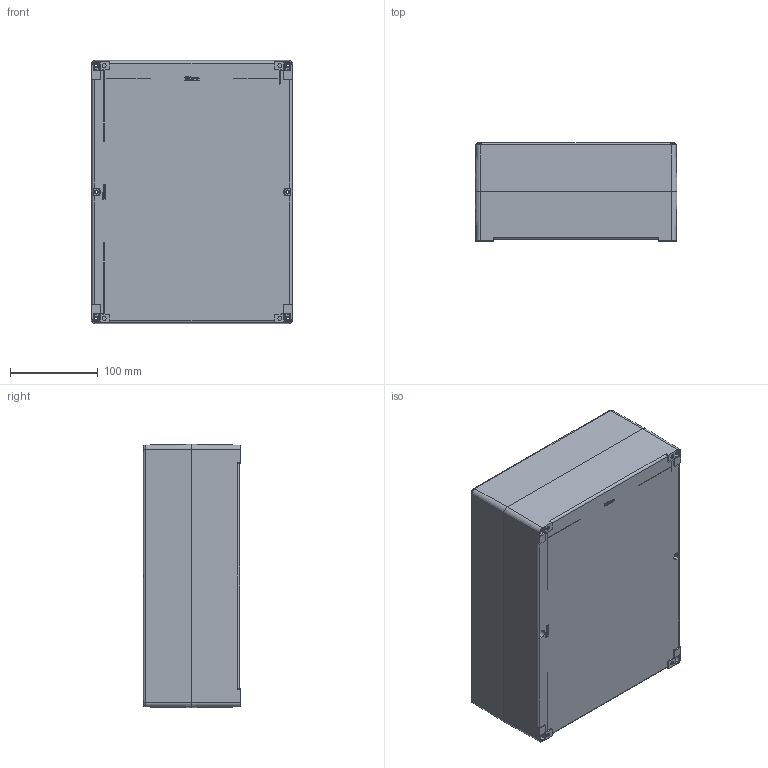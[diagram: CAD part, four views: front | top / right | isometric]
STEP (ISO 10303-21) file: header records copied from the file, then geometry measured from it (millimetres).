
FILE_DESCRIPTION (( 'STEP AP214' ), '1' );
FILE_NAME ('ZP 19 asm.STEP', '2014-10-27T11:41:47', ( '' ), ( '' ), 'SwSTEP 2.0', 'SolidWorks 2014', '' );
FILE_SCHEMA (( 'AUTOMOTIVE_DESIGN' ));
Length unit declared in the file: millimetre
Products named in the file (3): ZP 19 lid; ZP 19 Base; ZP 19 asm
Assembly tree (2 placements, depth 2):
  ZP 19 asm
    ZP 19 Base
    ZP 19 lid
Bounding box: 230 x 111.5 x 300 mm (x, y, z)
Volume: 756361 mm3; surface area: 537690.4 mm2
Topology: 2 solids, 2 shells, 1021 faces, 2767 edges, 1766 vertices
Faces by surface type: plane 546, cone 244, cylinder 121, bspline 100, torus 10
Entity records: 38061 total; most frequent: CARTESIAN_POINT 12709, ORIENTED_EDGE 5486, DIRECTION 4953, EDGE_CURVE 2743, VERTEX_POINT 1766, VECTOR 1757, LINE 1757, AXIS2_PLACEMENT_3D 1598
